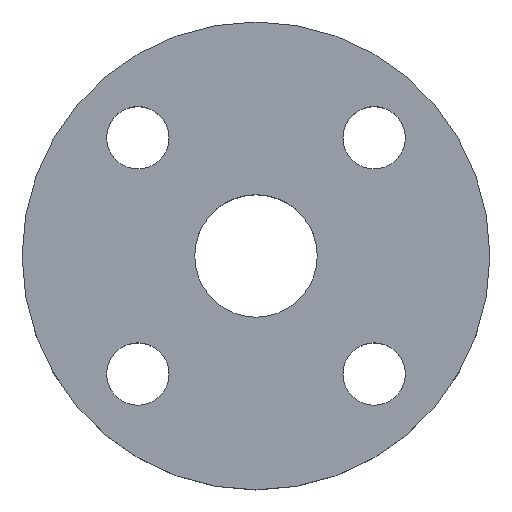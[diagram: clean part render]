
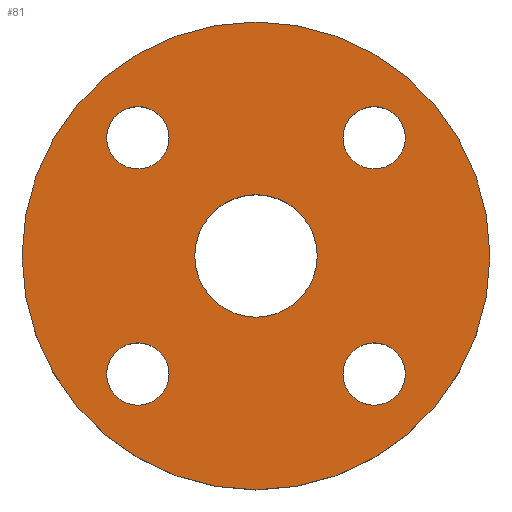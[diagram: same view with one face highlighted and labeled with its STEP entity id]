
A CAD part, top view. The second image highlights one B-rep face of the part: STEP entity #81.
In plain terms, the highlighted planar face has unit normal (0, 0, 1).
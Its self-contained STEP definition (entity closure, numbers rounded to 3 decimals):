
#6 = CIRCLE ( 'NONE', #88, 13.75 ) ;
#10 = EDGE_CURVE ( 'NONE', #465, #504, #199, .T. ) ;
#12 = CARTESIAN_POINT ( 'NONE',  ( 33.517, 26.517, 0. ) ) ;
#15 = CARTESIAN_POINT ( 'NONE',  ( -33.517, -26.517, 0. ) ) ;
#26 = CARTESIAN_POINT ( 'NONE',  ( 13.75, 0., 0. ) ) ;
#28 = AXIS2_PLACEMENT_3D ( 'NONE', #614, #615, #616 ) ;
#29 = CIRCLE ( 'NONE', #28, 7. ) ;
#30 = EDGE_CURVE ( 'NONE', #346, #503, #244, .T. ) ;
#46 = CARTESIAN_POINT ( 'NONE',  ( -33.517, 26.517, 0. ) ) ;
#64 = CARTESIAN_POINT ( 'NONE',  ( 0., 0., 0. ) ) ;
#65 = DIRECTION ( 'NONE',  ( 0., 0., -1. ) ) ;
#67 = DIRECTION ( 'NONE',  ( 0., 0., 1. ) ) ;
#68 = DIRECTION ( 'NONE',  ( 1., 0., 0. ) ) ;
#70 = CARTESIAN_POINT ( 'NONE',  ( -26.517, 26.517, 0. ) ) ;
#72 = CIRCLE ( 'NONE', #76, 7. ) ;
#76 = AXIS2_PLACEMENT_3D ( 'NONE', #157, #159, #163 ) ;
#81 = ADVANCED_FACE ( 'NONE', ( #543, #544, #545, #546, #547, #548 ), #549, .T. ) ;
#83 = AXIS2_PLACEMENT_3D ( 'NONE', #550, #551, #552 ) ;
#87 = CIRCLE ( 'NONE', #117, 7. ) ;
#88 = AXIS2_PLACEMENT_3D ( 'NONE', #64, #67, #68 ) ;
#91 = DIRECTION ( 'NONE',  ( 0., 0., -1. ) ) ;
#93 = DIRECTION ( 'NONE',  ( -1., 0., 0. ) ) ;
#104 = AXIS2_PLACEMENT_3D ( 'NONE', #576, #577, #578 ) ;
#114 = CIRCLE ( 'NONE', #104, 7. ) ;
#117 = AXIS2_PLACEMENT_3D ( 'NONE', #70, #91, #93 ) ;
#119 = AXIS2_PLACEMENT_3D ( 'NONE', #568, #573, #575 ) ;
#124 = EDGE_CURVE ( 'NONE', #336, #471, #125, .T. ) ;
#125 = CIRCLE ( 'NONE', #119, 7. ) ;
#126 = EDGE_CURVE ( 'NONE', #468, #474, #114, .T. ) ;
#127 = AXIS2_PLACEMENT_3D ( 'NONE', #505, #507, #508 ) ;
#157 = CARTESIAN_POINT ( 'NONE',  ( -26.517, 26.517, 0. ) ) ;
#159 = DIRECTION ( 'NONE',  ( 0., 0., -1. ) ) ;
#163 = DIRECTION ( 'NONE',  ( -1., 0., 0. ) ) ;
#179 = CARTESIAN_POINT ( 'NONE',  ( -19.517, 26.517, 0. ) ) ;
#186 = CARTESIAN_POINT ( 'NONE',  ( 0., 0., 0. ) ) ;
#188 = DIRECTION ( 'NONE',  ( 0., 0., 1. ) ) ;
#190 = DIRECTION ( 'NONE',  ( 1., 0., 0. ) ) ;
#192 = CARTESIAN_POINT ( 'NONE',  ( 26.517, 26.517, 0. ) ) ;
#194 = DIRECTION ( 'NONE',  ( 0., 0., -1. ) ) ;
#195 = DIRECTION ( 'NONE',  ( -1., 0., 0. ) ) ;
#199 = CIRCLE ( 'NONE', #127, 52.5 ) ;
#200 = AXIS2_PLACEMENT_3D ( 'NONE', #281, #349, #354 ) ;
#206 = CIRCLE ( 'NONE', #200, 7. ) ;
#215 = CARTESIAN_POINT ( 'NONE',  ( 52.5, 0., 0. ) ) ;
#217 = CARTESIAN_POINT ( 'NONE',  ( 19.517, -26.517, 0. ) ) ;
#223 = CARTESIAN_POINT ( 'NONE',  ( -19.517, -26.517, 0. ) ) ;
#226 = CARTESIAN_POINT ( 'NONE',  ( 33.517, -26.517, 0. ) ) ;
#234 = CARTESIAN_POINT ( 'NONE',  ( -13.75, 0., 0. ) ) ;
#238 = CARTESIAN_POINT ( 'NONE',  ( 19.517, 26.517, 0. ) ) ;
#243 = AXIS2_PLACEMENT_3D ( 'NONE', #517, #518, #519 ) ;
#244 = CIRCLE ( 'NONE', #243, 13.75 ) ;
#247 = AXIS2_PLACEMENT_3D ( 'NONE', #637, #65, #631 ) ;
#262 = CIRCLE ( 'NONE', #247, 7. ) ;
#280 = AXIS2_PLACEMENT_3D ( 'NONE', #192, #194, #195 ) ;
#281 = CARTESIAN_POINT ( 'NONE',  ( -26.517, -26.517, 0. ) ) ;
#287 = EDGE_CURVE ( 'NONE', #474, #468, #29, .T. ) ;
#322 = AXIS2_PLACEMENT_3D ( 'NONE', #186, #188, #190 ) ;
#324 = VERTEX_POINT ( 'NONE', #12 ) ;
#336 = VERTEX_POINT ( 'NONE', #15 ) ;
#341 = CARTESIAN_POINT ( 'NONE',  ( -52.5, 0., 0. ) ) ;
#342 = CIRCLE ( 'NONE', #280, 7. ) ;
#346 = VERTEX_POINT ( 'NONE', #26 ) ;
#349 = DIRECTION ( 'NONE',  ( 0., 0., -1. ) ) ;
#354 = DIRECTION ( 'NONE',  ( -1., 0., 0. ) ) ;
#365 = CIRCLE ( 'NONE', #322, 52.5 ) ;
#377 = VERTEX_POINT ( 'NONE', #46 ) ;
#380 = ORIENTED_EDGE ( 'NONE', *, *, #287, .T. ) ;
#381 = ORIENTED_EDGE ( 'NONE', *, *, #126, .T. ) ;
#382 = ORIENTED_EDGE ( 'NONE', *, *, #528, .T. ) ;
#383 = ORIENTED_EDGE ( 'NONE', *, *, #124, .T. ) ;
#384 = ORIENTED_EDGE ( 'NONE', *, *, #395, .T. ) ;
#385 = ORIENTED_EDGE ( 'NONE', *, *, #446, .T. ) ;
#386 = ORIENTED_EDGE ( 'NONE', *, *, #623, .T. ) ;
#389 = EDGE_CURVE ( 'NONE', #503, #346, #6, .T. ) ;
#390 = ORIENTED_EDGE ( 'NONE', *, *, #457, .T. ) ;
#391 = ORIENTED_EDGE ( 'NONE', *, *, #30, .F. ) ;
#392 = ORIENTED_EDGE ( 'NONE', *, *, #389, .F. ) ;
#393 = ORIENTED_EDGE ( 'NONE', *, *, #10, .T. ) ;
#394 = ORIENTED_EDGE ( 'NONE', *, *, #454, .T. ) ;
#395 = EDGE_CURVE ( 'NONE', #452, #377, #87, .T. ) ;
#446 = EDGE_CURVE ( 'NONE', #377, #452, #72, .T. ) ;
#452 = VERTEX_POINT ( 'NONE', #179 ) ;
#454 = EDGE_CURVE ( 'NONE', #504, #465, #365, .T. ) ;
#457 = EDGE_CURVE ( 'NONE', #499, #324, #342, .T. ) ;
#465 = VERTEX_POINT ( 'NONE', #215 ) ;
#467 = EDGE_LOOP ( 'NONE', ( #380, #381 ) ) ;
#468 = VERTEX_POINT ( 'NONE', #217 ) ;
#471 = VERTEX_POINT ( 'NONE', #223 ) ;
#472 = EDGE_LOOP ( 'NONE', ( #382, #383 ) ) ;
#474 = VERTEX_POINT ( 'NONE', #226 ) ;
#476 = EDGE_LOOP ( 'NONE', ( #386, #390 ) ) ;
#492 = EDGE_LOOP ( 'NONE', ( #393, #394 ) ) ;
#497 = EDGE_LOOP ( 'NONE', ( #384, #385 ) ) ;
#499 = VERTEX_POINT ( 'NONE', #238 ) ;
#501 = EDGE_LOOP ( 'NONE', ( #391, #392 ) ) ;
#503 = VERTEX_POINT ( 'NONE', #234 ) ;
#504 = VERTEX_POINT ( 'NONE', #341 ) ;
#505 = CARTESIAN_POINT ( 'NONE',  ( 0., 0., 0. ) ) ;
#507 = DIRECTION ( 'NONE',  ( 0., 0., 1. ) ) ;
#508 = DIRECTION ( 'NONE',  ( 1., 0., 0. ) ) ;
#517 = CARTESIAN_POINT ( 'NONE',  ( 0., 0., 0. ) ) ;
#518 = DIRECTION ( 'NONE',  ( 0., 0., 1. ) ) ;
#519 = DIRECTION ( 'NONE',  ( 1., 0., 0. ) ) ;
#528 = EDGE_CURVE ( 'NONE', #471, #336, #206, .T. ) ;
#543 = FACE_BOUND ( 'NONE', #467, .T. ) ;
#544 = FACE_BOUND ( 'NONE', #472, .T. ) ;
#545 = FACE_BOUND ( 'NONE', #497, .T. ) ;
#546 = FACE_BOUND ( 'NONE', #476, .T. ) ;
#547 = FACE_BOUND ( 'NONE', #501, .T. ) ;
#548 = FACE_OUTER_BOUND ( 'NONE', #492, .T. ) ;
#549 = PLANE ( 'NONE',  #83 ) ;
#550 = CARTESIAN_POINT ( 'NONE',  ( 0., 0., 0. ) ) ;
#551 = DIRECTION ( 'NONE',  ( 0., 0., 1. ) ) ;
#552 = DIRECTION ( 'NONE',  ( 1., 0., 0. ) ) ;
#568 = CARTESIAN_POINT ( 'NONE',  ( -26.517, -26.517, 0. ) ) ;
#573 = DIRECTION ( 'NONE',  ( 0., 0., -1. ) ) ;
#575 = DIRECTION ( 'NONE',  ( -1., 0., 0. ) ) ;
#576 = CARTESIAN_POINT ( 'NONE',  ( 26.517, -26.517, 0. ) ) ;
#577 = DIRECTION ( 'NONE',  ( 0., 0., -1. ) ) ;
#578 = DIRECTION ( 'NONE',  ( -1., 0., 0. ) ) ;
#614 = CARTESIAN_POINT ( 'NONE',  ( 26.517, -26.517, 0. ) ) ;
#615 = DIRECTION ( 'NONE',  ( 0., 0., -1. ) ) ;
#616 = DIRECTION ( 'NONE',  ( -1., 0., 0. ) ) ;
#623 = EDGE_CURVE ( 'NONE', #324, #499, #262, .T. ) ;
#631 = DIRECTION ( 'NONE',  ( -1., 0., 0. ) ) ;
#637 = CARTESIAN_POINT ( 'NONE',  ( 26.517, 26.517, 0. ) ) ;
